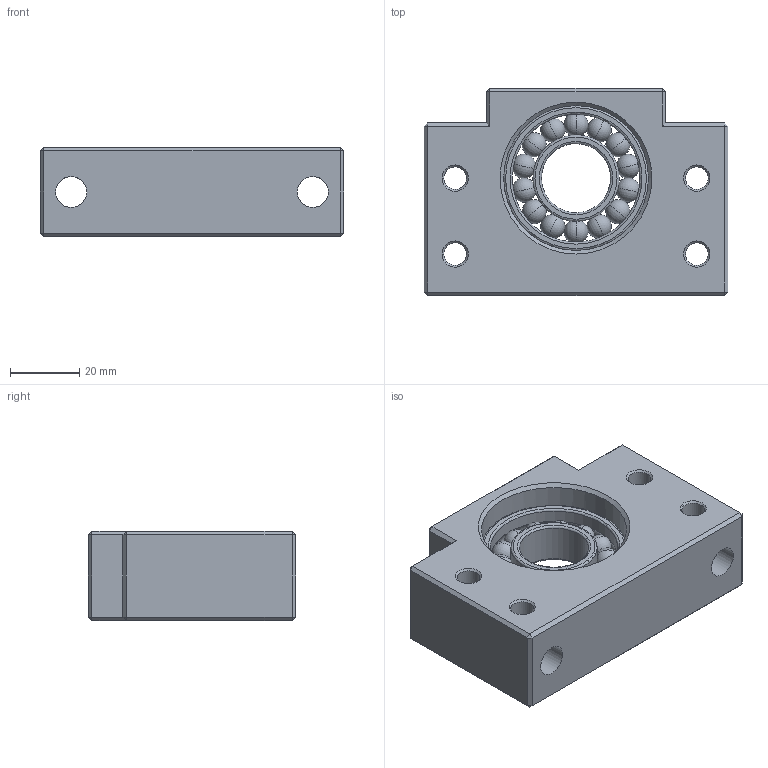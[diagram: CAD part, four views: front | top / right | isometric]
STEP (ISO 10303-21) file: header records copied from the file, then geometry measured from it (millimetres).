
FILE_DESCRIPTION(('STEP AP214'), '1');
FILE_NAME('BF20', '', ('UNSPECIFIED'), ('UNSPECIFIED'), 'ASCON STEP Converter 1.3', 'ASCON Math Kernel', '');
FILE_SCHEMA(('AUTOMOTIVE_DESIGN { 1 0 10303 214 3 1 1}'));
Length unit declared in the file: millimetre
Bounding box: 88 x 60 x 26 mm (x, y, z)
Volume: 89110.7 mm3; surface area: 28962.8 mm2
Topology: 17 solids, 17 shells, 119 faces, 304 edges, 189 vertices
Faces by surface type: plane 50, sphere 28, cylinder 19, cone 12, torus 10
Full cylindrical faces by diameter (mm): 6.6 x8, 9 x2, 14 x2, 20 x1, 25 x2, 37 x2, 42 x2
Entity records: 7437 total; most frequent: CARTESIAN_POINT 4012, DIRECTION 470, ORIENTED_EDGE 378, AXIS2_PLACEMENT_3D 192, EDGE_CURVE 189, EDGE_LOOP 188, VERTEX_POINT 147, COLOUR_RGB 136
